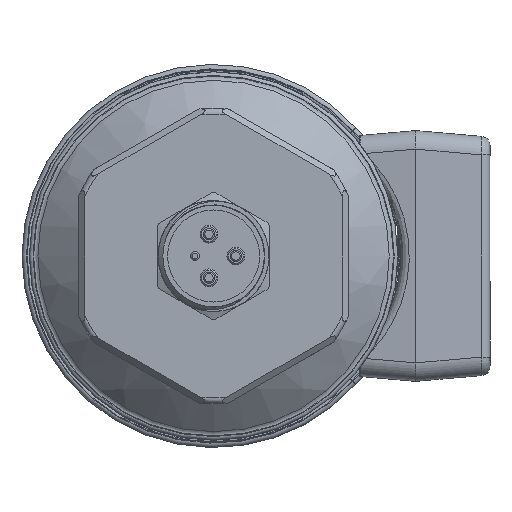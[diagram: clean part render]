
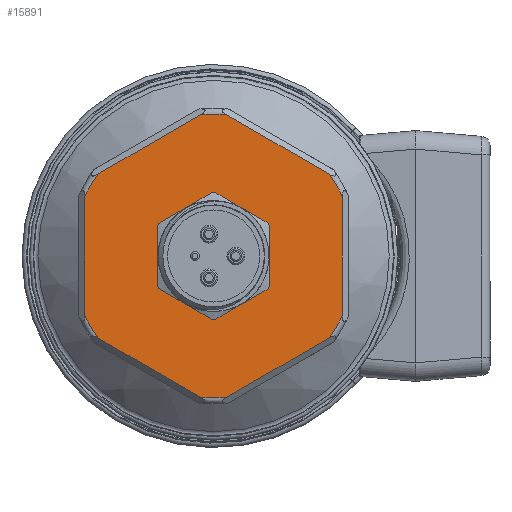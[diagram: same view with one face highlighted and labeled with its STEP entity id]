
A CAD part, left-side view. The second image highlights one B-rep face of the part: STEP entity #15891.
In plain terms, the highlighted planar face has unit normal (-1, 0, 0).
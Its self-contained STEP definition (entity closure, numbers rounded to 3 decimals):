
#285 = ORIENTED_EDGE ( 'NONE', *, *, #15753, .T. ) ;
#582 = DIRECTION ( 'NONE',  ( 0., 0., 1. ) ) ;
#617 = CARTESIAN_POINT ( 'NONE',  ( -79.5, 22.019, -10.161 ) ) ;
#682 = VERTEX_POINT ( 'NONE', #26370 ) ;
#766 = CIRCLE ( 'NONE', #6462, 24.25 ) ;
#770 = DIRECTION ( 'NONE',  ( 0., 0., -1. ) ) ;
#1234 = CARTESIAN_POINT ( 'NONE',  ( -79.5, 0., 5.753 ) ) ;
#1459 = EDGE_CURVE ( 'NONE', #25781, #26440, #4654, .T. ) ;
#1618 = ORIENTED_EDGE ( 'NONE', *, *, #19227, .F. ) ;
#1742 = AXIS2_PLACEMENT_3D ( 'NONE', #18510, #4519, #20825 ) ;
#1800 = ORIENTED_EDGE ( 'NONE', *, *, #26840, .T. ) ;
#2305 = CARTESIAN_POINT ( 'NONE',  ( -79.5, -19.809, -13.989 ) ) ;
#2566 = DIRECTION ( 'NONE',  ( -1., 0., 0. ) ) ;
#2647 = EDGE_CURVE ( 'NONE', #29596, #682, #2750, .T. ) ;
#2656 = VECTOR ( 'NONE', #2669, 1000. ) ;
#2669 = DIRECTION ( 'NONE',  ( 0., 0., -1. ) ) ;
#2750 = LINE ( 'NONE', #6837, #15174 ) ;
#3586 = VERTEX_POINT ( 'NONE', #30148 ) ;
#4229 = DIRECTION ( 'NONE',  ( 1., 0., 0. ) ) ;
#4354 = ORIENTED_EDGE ( 'NONE', *, *, #11652, .T. ) ;
#4394 = EDGE_CURVE ( 'NONE', #14663, #26440, #766, .T. ) ;
#4519 = DIRECTION ( 'NONE',  ( 1., 0., 0. ) ) ;
#4654 = LINE ( 'NONE', #12199, #28731 ) ;
#4807 = LINE ( 'NONE', #10566, #22683 ) ;
#5566 = ORIENTED_EDGE ( 'NONE', *, *, #2647, .T. ) ;
#5646 = ORIENTED_EDGE ( 'NONE', *, *, #9148, .F. ) ;
#5965 = CIRCLE ( 'NONE', #27629, 5.753 ) ;
#6462 = AXIS2_PLACEMENT_3D ( 'NONE', #18228, #4229, #20540 ) ;
#6607 = FACE_BOUND ( 'NONE', #20835, .T. ) ;
#6837 = CARTESIAN_POINT ( 'NONE',  ( -79.5, 29.197, -8.568 ) ) ;
#7047 = CARTESIAN_POINT ( 'NONE',  ( -79.5, -2.21, -24.149 ) ) ;
#7317 = AXIS2_PLACEMENT_3D ( 'NONE', #27054, #13125, #29406 ) ;
#7342 = VECTOR ( 'NONE', #11641, 1000. ) ;
#7514 = DIRECTION ( 'NONE',  ( -1., 0., 0. ) ) ;
#7931 = CIRCLE ( 'NONE', #7317, 24.25 ) ;
#8847 = LINE ( 'NONE', #25679, #2656 ) ;
#9114 = LINE ( 'NONE', #10604, #26981 ) ;
#9148 = EDGE_CURVE ( 'NONE', #15856, #682, #14043, .T. ) ;
#9232 = VERTEX_POINT ( 'NONE', #24181 ) ;
#9592 = DIRECTION ( 'NONE',  ( 1., 0., 0. ) ) ;
#10471 = VERTEX_POINT ( 'NONE', #1234 ) ;
#10563 = CIRCLE ( 'NONE', #21264, 24.25 ) ;
#10566 = CARTESIAN_POINT ( 'NONE',  ( -79.5, 7.178, 29.569 ) ) ;
#10604 = CARTESIAN_POINT ( 'NONE',  ( -79.5, 7.178, -29.569 ) ) ;
#11096 = CARTESIAN_POINT ( 'NONE',  ( -79.5, -19.809, 13.989 ) ) ;
#11641 = DIRECTION ( 'NONE',  ( 0., 0.866, -0.5 ) ) ;
#11652 = EDGE_CURVE ( 'NONE', #14485, #19510, #8847, .T. ) ;
#12199 = CARTESIAN_POINT ( 'NONE',  ( -79.5, -22.019, 0. ) ) ;
#12895 = AXIS2_PLACEMENT_3D ( 'NONE', #23529, #9592, #25866 ) ;
#12928 = DIRECTION ( 'NONE',  ( 0., -0.866, 0.5 ) ) ;
#12966 = EDGE_CURVE ( 'NONE', #15856, #14959, #9114, .T. ) ;
#13125 = DIRECTION ( 'NONE',  ( 1., 0., 0. ) ) ;
#13604 = DIRECTION ( 'NONE',  ( 1., 0., 0. ) ) ;
#14043 = CIRCLE ( 'NONE', #27907, 24.25 ) ;
#14288 = LINE ( 'NONE', #27930, #7342 ) ;
#14485 = VERTEX_POINT ( 'NONE', #29330 ) ;
#14663 = VERTEX_POINT ( 'NONE', #11096 ) ;
#14737 = DIRECTION ( 'NONE',  ( 1., 0., 0. ) ) ;
#14959 = VERTEX_POINT ( 'NONE', #2305 ) ;
#15060 = ORIENTED_EDGE ( 'NONE', *, *, #4394, .F. ) ;
#15174 = VECTOR ( 'NONE', #27817, 1000. ) ;
#15753 = EDGE_CURVE ( 'NONE', #3586, #9232, #14288, .T. ) ;
#15856 = VERTEX_POINT ( 'NONE', #7047 ) ;
#15891 = ADVANCED_FACE ( 'NONE', ( #6607, #25929 ), #25678, .T. ) ;
#16565 = CARTESIAN_POINT ( 'NONE',  ( -79.5, 24.25, 0. ) ) ;
#16810 = CIRCLE ( 'NONE', #1742, 24.25 ) ;
#17511 = ORIENTED_EDGE ( 'NONE', *, *, #12966, .T. ) ;
#17955 = EDGE_CURVE ( 'NONE', #29596, #19510, #10563, .T. ) ;
#18228 = CARTESIAN_POINT ( 'NONE',  ( -79.5, 0., 0. ) ) ;
#18250 = EDGE_CURVE ( 'NONE', #3586, #19604, #28737, .T. ) ;
#18510 = CARTESIAN_POINT ( 'NONE',  ( -79.5, 0., 0. ) ) ;
#18706 = AXIS2_PLACEMENT_3D ( 'NONE', #16565, #2566, #18888 ) ;
#18888 = DIRECTION ( 'NONE',  ( 0., 0., 1. ) ) ;
#18955 = CARTESIAN_POINT ( 'NONE',  ( -79.5, -22.019, -10.161 ) ) ;
#19227 = EDGE_CURVE ( 'NONE', #25781, #14959, #7931, .T. ) ;
#19510 = VERTEX_POINT ( 'NONE', #617 ) ;
#19604 = VERTEX_POINT ( 'NONE', #21702 ) ;
#20540 = DIRECTION ( 'NONE',  ( 0., 0., -1. ) ) ;
#20825 = DIRECTION ( 'NONE',  ( 0., 0., -1. ) ) ;
#20835 = EDGE_LOOP ( 'NONE', ( #24020 ) ) ;
#21264 = AXIS2_PLACEMENT_3D ( 'NONE', #27537, #13604, #29888 ) ;
#21466 = CARTESIAN_POINT ( 'NONE',  ( -79.5, 0., 0. ) ) ;
#21702 = CARTESIAN_POINT ( 'NONE',  ( -79.5, -2.21, 24.149 ) ) ;
#22153 = ORIENTED_EDGE ( 'NONE', *, *, #18250, .F. ) ;
#22378 = EDGE_CURVE ( 'NONE', #14485, #9232, #16810, .T. ) ;
#22683 = VECTOR ( 'NONE', #24480, 1000. ) ;
#23529 = CARTESIAN_POINT ( 'NONE',  ( -79.5, 0., 0. ) ) ;
#23807 = DIRECTION ( 'NONE',  ( 0., 0., 1. ) ) ;
#24020 = ORIENTED_EDGE ( 'NONE', *, *, #26022, .F. ) ;
#24181 = CARTESIAN_POINT ( 'NONE',  ( -79.5, 19.809, 13.989 ) ) ;
#24480 = DIRECTION ( 'NONE',  ( 0., 0.866, 0.5 ) ) ;
#25425 = ORIENTED_EDGE ( 'NONE', *, *, #17955, .F. ) ;
#25678 = PLANE ( 'NONE',  #18706 ) ;
#25679 = CARTESIAN_POINT ( 'NONE',  ( -79.5, 22.019, 0. ) ) ;
#25781 = VERTEX_POINT ( 'NONE', #18955 ) ;
#25866 = DIRECTION ( 'NONE',  ( 0., 0., -1. ) ) ;
#25929 = FACE_OUTER_BOUND ( 'NONE', #29923, .T. ) ;
#26022 = EDGE_CURVE ( 'NONE', #10471, #10471, #5965, .T. ) ;
#26057 = ORIENTED_EDGE ( 'NONE', *, *, #1459, .T. ) ;
#26309 = CARTESIAN_POINT ( 'NONE',  ( -79.5, -22.019, 10.161 ) ) ;
#26370 = CARTESIAN_POINT ( 'NONE',  ( -79.5, 2.21, -24.149 ) ) ;
#26440 = VERTEX_POINT ( 'NONE', #26309 ) ;
#26840 = EDGE_CURVE ( 'NONE', #14663, #19604, #4807, .T. ) ;
#26981 = VECTOR ( 'NONE', #12928, 1000. ) ;
#27054 = CARTESIAN_POINT ( 'NONE',  ( -79.5, 0., 0. ) ) ;
#27531 = CARTESIAN_POINT ( 'NONE',  ( -79.5, 19.809, -13.989 ) ) ;
#27537 = CARTESIAN_POINT ( 'NONE',  ( -79.5, 0., 0. ) ) ;
#27629 = AXIS2_PLACEMENT_3D ( 'NONE', #21466, #7514, #23807 ) ;
#27817 = DIRECTION ( 'NONE',  ( 0., -0.866, -0.5 ) ) ;
#27907 = AXIS2_PLACEMENT_3D ( 'NONE', #28673, #14737, #770 ) ;
#27930 = CARTESIAN_POINT ( 'NONE',  ( -79.5, 29.197, 8.568 ) ) ;
#28673 = CARTESIAN_POINT ( 'NONE',  ( -79.5, 0., 0. ) ) ;
#28731 = VECTOR ( 'NONE', #582, 1000. ) ;
#28737 = CIRCLE ( 'NONE', #12895, 24.25 ) ;
#28847 = ORIENTED_EDGE ( 'NONE', *, *, #22378, .F. ) ;
#29330 = CARTESIAN_POINT ( 'NONE',  ( -79.5, 22.019, 10.161 ) ) ;
#29406 = DIRECTION ( 'NONE',  ( 0., 0., -1. ) ) ;
#29596 = VERTEX_POINT ( 'NONE', #27531 ) ;
#29888 = DIRECTION ( 'NONE',  ( 0., 0., -1. ) ) ;
#29923 = EDGE_LOOP ( 'NONE', ( #15060, #1800, #22153, #285, #28847, #4354, #25425, #5566, #5646, #17511, #1618, #26057 ) ) ;
#30148 = CARTESIAN_POINT ( 'NONE',  ( -79.5, 2.21, 24.149 ) ) ;
